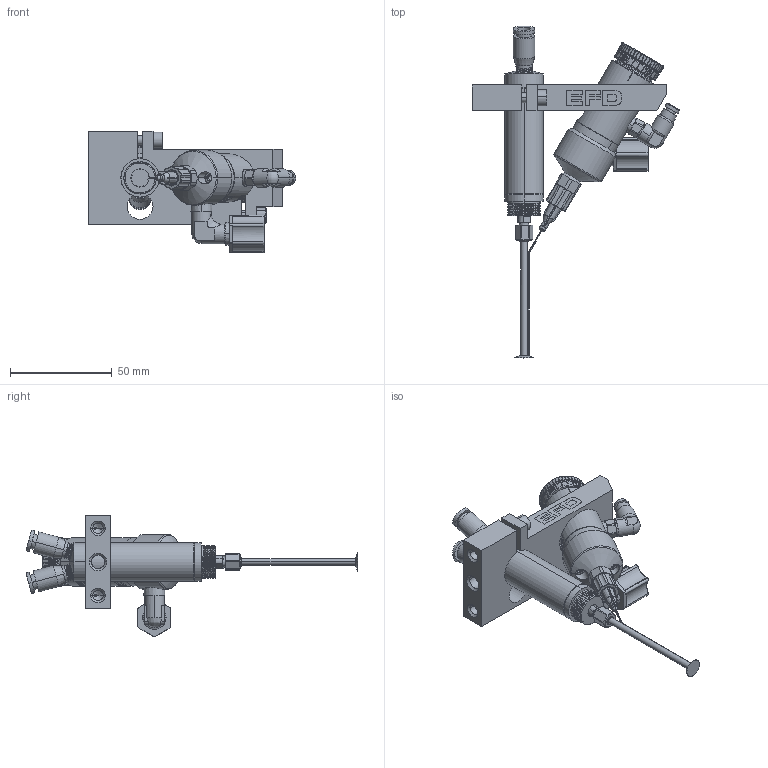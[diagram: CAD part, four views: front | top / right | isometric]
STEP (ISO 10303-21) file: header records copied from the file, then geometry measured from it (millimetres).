
FILE_DESCRIPTION (( 'STEP AP214' ), '1' );
FILE_NAME ('NORDSONEFD-9mm Spinner 23GA Tip.STEP', '2019-07-21T14:57:27', ( '' ), ( '' ), 'SwSTEP 2.0', 'SolidWorks 2019', '' );
FILE_SCHEMA (( 'AUTOMOTIVE_DESIGN' ));
Length unit declared in the file: inch
Products named in the file (10): NORDSONEFD-9mm Spinner 23GA Tip_7021713 PUSH IN FIT 10 32X5 32 ELB NP; NORDSONEFD-9mm Spinner 23GA Tip_752V DIAPHRAGM VALVE; NORDSONEFD-9mm Spinner 23GA Tip_7021849 23GA TIP W 30 DEGREE BEND; NORDSONEFD-9mm Spinner 23GA Tip_7021448 ROTATING LL TIP ADAPTER 752V; NORDSONEFD-9mm Spinner 23GA Tip_7021851 R SPINNER MOUNTING BRACKET; NORDSONEFD-9mm Spinner 23GA Tip_7021499 FIT1 8MPT-1 4COMP ELB BLK PP; NORDSONEFD-9mm Spinner 23GA Tip; NORDSONEFD-9mm Spinner 23GA Tip_7021796 AIR MOTOR - COLLETED; NORDSONEFD-9mm Spinner 23GA Tip_7021842 9MM 354 SPINNER; NORDSONEFD-9mm Spinner 23GA Tip_7021410 DIAPHRAGM VALVE ACETAL HEAD
Assembly tree (9 placements, depth 3):
  NORDSONEFD-9mm Spinner 23GA Tip
    NORDSONEFD-9mm Spinner 23GA Tip_7021851 R SPINNER MOUNTING BRACKET
    NORDSONEFD-9mm Spinner 23GA Tip_7021796 AIR MOTOR - COLLETED
    NORDSONEFD-9mm Spinner 23GA Tip_7021410 DIAPHRAGM VALVE ACETAL HEAD
      NORDSONEFD-9mm Spinner 23GA Tip_752V DIAPHRAGM VALVE
      NORDSONEFD-9mm Spinner 23GA Tip_7021499 FIT1 8MPT-1 4COMP ELB BLK PP
      NORDSONEFD-9mm Spinner 23GA Tip_7021713 PUSH IN FIT 10 32X5 32 ELB NP
    NORDSONEFD-9mm Spinner 23GA Tip_7021448 ROTATING LL TIP ADAPTER 752V
    NORDSONEFD-9mm Spinner 23GA Tip_7021842 9MM 354 SPINNER
    NORDSONEFD-9mm Spinner 23GA Tip_7021849 23GA TIP W 30 DEGREE BEND
Bounding box: 101.8 x 163.03 x 59.59 mm (x, y, z)
Volume: 92361.6 mm3; surface area: 37963.2 mm2
Topology: 8 solids, 8 shells, 2067 faces, 5396 edges, 3470 vertices
Faces by surface type: plane 785, bspline 518, cylinder 448, cone 248, torus 68
Entity records: 121589 total; most frequent: CARTESIAN_POINT 68269, ORIENTED_EDGE 10734, DIRECTION 7742, EDGE_CURVE 5367, VERTEX_POINT 3470, AXIS2_PLACEMENT_3D 2987, EDGE_LOOP 2243, ADVANCED_FACE 2067
